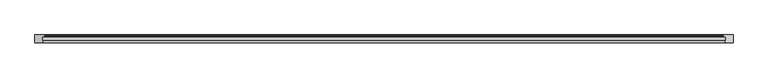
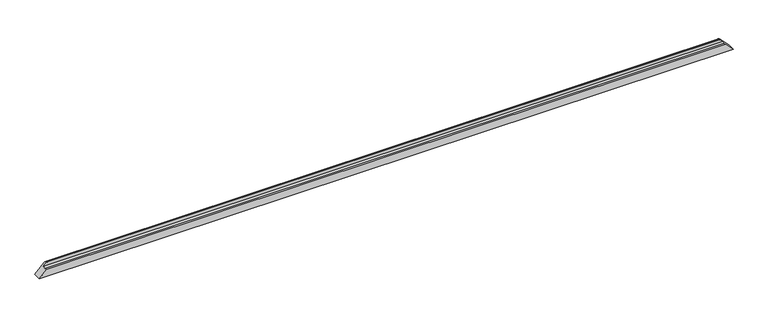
"""IFC4 building model written with IfcOpenShell, lengths in millimetres: proxy geometry, Weiku - Montante - Caixilho 02.2.01.005 : Weiku - Montante - Caixilho 02.2.01.005."""

import ifcopenshell
import ifcopenshell.guid

model = None  # the IFC model being written
_history = None  # IfcOwnerHistory: only IFC2X3 demands one
_inside = {}  # id of a spatial element -> (the spatial element, [elements in it])
_under = {}  # id of a project, library or spatial element -> (it, [spatial elements below it])
_declared = {}  # id of a project -> (the project, [libraries it declares])
_typed = {}  # id of a type object -> (the type object, [elements of that type])
_made_of = {}  # id of a material, layer set ... -> (it, [elements and type objects made of it])


def new_model(schema):
    """Start an empty IFC model of exactly this schema.

    Asked for "IFC4X3", IfcOpenShell would pick the latest addendum, in which some entities
    have other attributes; the version numbers below select the first issue.
    IFC2X3 requires an IfcOwnerHistory on every rooted entity: one is made here for all.
    """
    global model, _history
    if schema == "IFC4X3":
        model = ifcopenshell.file(schema_version=(4, 3, 0, 0))
    else:
        model = ifcopenshell.file(schema=schema)
    _inside.clear()
    _under.clear()
    _declared.clear()
    _typed.clear()
    _made_of.clear()
    _history = None
    if model.schema == "IFC2X3":
        org = make("IfcOrganization", Name="unknown")
        user = make(
            "IfcPersonAndOrganization",
            ThePerson=make("IfcPerson", FamilyName="unknown"),
            TheOrganization=org,
        )
        app = make(
            "IfcApplication",
            ApplicationDeveloper=org,
            Version="unknown",
            ApplicationFullName="unknown",
            ApplicationIdentifier="unknown",
        )
        _history = make(
            "IfcOwnerHistory",
            OwningUser=user,
            OwningApplication=app,
            ChangeAction="ADDED",
            CreationDate=0,
        )
    return model


def make(cls, **values):
    """One entity of the class cls with the attributes given. An attribute that is None is left unset."""
    return model.create_entity(
        cls, **{name: value for name, value in values.items() if value is not None}
    )


def rooted(cls, **values):
    """An entity with a GlobalId (a new one), such as an element, a storey or a relation."""
    return make(cls, GlobalId=ifcopenshell.guid.new(), OwnerHistory=_history, **values)


def si_unit(unit_type, name, prefix=None):
    """IfcSIUnit, for example si_unit("LENGTHUNIT", "METRE", prefix="MILLI")."""
    return make("IfcSIUnit", UnitType=unit_type, Prefix=prefix, Name=name)


def assignment(units):
    """IfcUnitAssignment: the units of a project."""
    return None if units is None else make("IfcUnitAssignment", Units=units)


def point(xyz):
    """IfcCartesianPoint."""
    return None if xyz is None else make("IfcCartesianPoint", Coordinates=xyz)


def direction(xyz):
    """IfcDirection."""
    return None if xyz is None else make("IfcDirection", DirectionRatios=xyz)


def frame(location, z_axis=None, x_axis=None):
    """IfcAxis2Placement3D, a coordinate frame: its origin and axes. An axis left out is left unset."""
    return make(
        "IfcAxis2Placement3D",
        Location=point(location),
        Axis=direction(z_axis),
        RefDirection=direction(x_axis),
    )


def origin():
    """The frame at (0, 0, 0) with its axes left unset."""
    return frame((0.0, 0.0, 0.0))


def place(relative_to, where):
    """IfcLocalPlacement: puts the frame where relative to a parent placement (None: the world)."""
    return make(
        "IfcLocalPlacement", PlacementRelTo=relative_to, RelativePlacement=where
    )


def context(
    kind, dimensions, precision=None, world=None, true_north=None, identifier=None
):
    """IfcGeometricRepresentationContext, for example the 3D "Model" context."""
    return make(
        "IfcGeometricRepresentationContext",
        ContextIdentifier=identifier,
        ContextType=kind,
        CoordinateSpaceDimension=dimensions,
        Precision=precision,
        WorldCoordinateSystem=world,
        TrueNorth=true_north,
    )


def project(units=None, contexts=None):
    """IfcProject with its units and contexts."""
    return rooted(
        "IfcProject",
        Name="project",
        RepresentationContexts=contexts,
        UnitsInContext=assignment(units),
    )


def spatial(cls, under=None, at=None, **own):
    """A site, building, storey or space (cls), placed at a placement, below another one or the project."""
    s = rooted(cls, ObjectPlacement=at, **own)
    if under is not None:
        _under.setdefault(under.id(), (under, []))[1].append(s)
    return s


def ellipse_curve(where, semi_axis1, semi_axis2):
    """IfcEllipse in the frame where."""
    return make(
        "IfcEllipse", Position=where, SemiAxis1=semi_axis1, SemiAxis2=semi_axis2
    )


def shape(context_of_items, identifier, shape_type, items):
    """IfcShapeRepresentation: the items that make up one representation, for example the "Body"."""
    return make(
        "IfcShapeRepresentation",
        ContextOfItems=context_of_items,
        RepresentationIdentifier=identifier,
        RepresentationType=shape_type,
        Items=items,
    )


def source(mapping_origin, context_of_items, identifier, shape_type, items):
    """IfcRepresentationMap: a shape defined once, which mapped items show again and again."""
    return make(
        "IfcRepresentationMap",
        MappingOrigin=mapping_origin,
        MappedRepresentation=shape(context_of_items, identifier, shape_type, items),
    )


def transform(
    local_origin,
    x_axis=None,
    y_axis=None,
    z_axis=None,
    scale=None,
    scale2=None,
    scale3=None,
    uniform=True,
):
    """IfcCartesianTransformationOperator3D, or its non-uniform kind. x_axis, y_axis, z_axis: its Axis1, 2, 3."""
    if uniform:
        return make(
            "IfcCartesianTransformationOperator3D",
            Axis1=direction(x_axis),
            Axis2=direction(y_axis),
            LocalOrigin=point(local_origin),
            Scale=scale,
            Axis3=direction(z_axis),
        )
    return make(
        "IfcCartesianTransformationOperator3DnonUniform",
        Axis1=direction(x_axis),
        Axis2=direction(y_axis),
        LocalOrigin=point(local_origin),
        Scale=scale,
        Axis3=direction(z_axis),
        Scale2=scale2,
        Scale3=scale3,
    )


def mapped(mapping_source, mapping_target):
    """IfcMappedItem: shows the shape of a source again, moved by a transform."""
    return make(
        "IfcMappedItem", MappingSource=mapping_source, MappingTarget=mapping_target
    )


def made_of(thing, what):
    """Note that an element or type object is made of a material, layer set ...; save() writes the relation."""
    if what is not None:
        _made_of.setdefault(what.id(), (what, []))[1].append(thing)
    return thing


def element(
    cls,
    number,
    at=None,
    inside=None,
    cuts=None,
    type_object=None,
    material=None,
    context=None,
    identifier="Body",
    shape_type=None,
    held_by="IfcProductDefinitionShape",
    body=None,
    shapes=None,
    **own,
):
    """One element of the class cls, such as IfcWall. Its Tag is "e" and its number.

    at: its placement. inside: the storey or other place that contains it. cuts: it is an
    opening in that element (IfcRelVoidsElement). A single representation is given by context,
    identifier, shape_type and body (its items); several are given by shapes. held_by: the class
    of the entity that holds the representations. save() writes the other relations.
    """
    e = rooted(cls, Tag="e%d" % number, ObjectPlacement=at, **own)
    if body is not None:
        shapes = [shape(context, identifier, shape_type, body)]
    if shapes is not None:
        e.Representation = make(held_by, Representations=shapes)
    if inside is not None:
        _inside.setdefault(inside.id(), (inside, []))[1].append(e)
    if cuts is not None:
        rooted(
            "IfcRelVoidsElement", RelatingBuildingElement=cuts, RelatedOpeningElement=e
        )
    if type_object is not None:
        _typed.setdefault(type_object.id(), (type_object, []))[1].append(e)
    return made_of(e, material)


def aggregate(whole, parts):
    """IfcRelAggregates: a whole, such as a stair, and the parts it consists of."""
    return rooted("IfcRelAggregates", RelatingObject=whole, RelatedObjects=parts)


def save(model, path):
    """Write the relations noted so far, then the file.

    IfcRelAggregates (storeys below a building ...), IfcRelContainedInSpatialStructure (elements
    in a storey), IfcRelDefinesByType, IfcRelAssociatesMaterial and IfcRelDeclares: one each for
    every whole, place, type object, material and project.
    """
    for whole, parts in _under.values():
        aggregate(whole, parts)
    for where, things in _inside.values():
        rooted(
            "IfcRelContainedInSpatialStructure",
            RelatedElements=things,
            RelatingStructure=where,
        )
    for kind, things in _typed.values():
        rooted("IfcRelDefinesByType", RelatedObjects=things, RelatingType=kind)
    for what, things in _made_of.values():
        rooted("IfcRelAssociatesMaterial", RelatedObjects=things, RelatingMaterial=what)
    for by, libraries in _declared.values():
        rooted("IfcRelDeclares", RelatingContext=by, RelatedDefinitions=libraries)
    model.write(path)


def plane_surface(at):
    """IfcPlane: the flat surface through the origin of the frame at, square to its z axis."""
    return make("IfcPlane", Position=at)


def cylinder_surface(at, radius):
    """IfcCylindricalSurface: all points at the distance radius from the z axis of the frame at."""
    return make("IfcCylindricalSurface", Position=at, Radius=radius)


def advanced_brep(points, edges, surfaces, faces):
    """IfcAdvancedBrep: a solid bounded by faces that lie on surfaces and meet in shared edges.

    An edge is (start, end): straight between two places in points (the first is 0);
    or (start, end, curve); or (start, end, curve, False) where it runs against its curve.
    A face is (place in surfaces, loops), or (place, loops, False) where it looks against
    its surface's normal. A loop lists edges by number (the first is 1), with a minus sign
    where the edge is run from its end to its start. The first loop is the outer one.
    """
    corners = [point(p) for p in points]
    vertices = [make("IfcVertexPoint", VertexGeometry=c) for c in corners]
    made = []
    for start, end, *more in edges:
        made.append(
            make(
                "IfcEdgeCurve",
                EdgeStart=vertices[start],
                EdgeEnd=vertices[end],
                EdgeGeometry=more[0] if more else make("IfcPolyline", Points=[corners[start], corners[end]]),
                SameSense=more[1] if len(more) > 1 else True,
            )
        )
    hull = []
    for where, loops, *sense in faces:
        bounds = []
        for j, loop in enumerate(loops):
            ring = [make("IfcOrientedEdge", EdgeElement=made[abs(k) - 1], Orientation=k > 0) for k in loop]
            bounds.append(
                make(
                    "IfcFaceOuterBound" if j == 0 else "IfcFaceBound",
                    Bound=make("IfcEdgeLoop", EdgeList=ring),
                    Orientation=True,
                )
            )
        hull.append(make("IfcAdvancedFace", Bounds=bounds, FaceSurface=surfaces[where], SameSense=sense[0] if sense else True))
    return make("IfcAdvancedBrep", Outer=make("IfcClosedShell", CfsFaces=hull))


def generic_models_8d56d25d(model_context):
    return source(origin(), model_context, "Body", "AdvancedBrep", [
        advanced_brep(
        [(-2199.0, -12.5, 46.0), (2199.0, -12.5, 46.0), (2178.8909676, -12.5, 66.1090324), (-2178.8909676, -12.5, 66.1090324), (-2199.0, -37.8314286, 46.0), (2199.0, -37.8314286, 46.0), (-2196.0, -37.027581, 49.0), (2196.0, -37.027581, 49.0), (-2196.0, -50.0, 49.0), (2196.0, -50.0, 49.0), (2245.0, -50.0, 0.0), (-2245.0, -50.0, 0.0), (-2245.0, 0.0, 0.0), (2245.0, 0.0, 0.0), (-2183.4997332, 0.0, 61.5002668), (2183.4997332, 0.0, 61.5002668), (-2178.118227, -11.4929448, 66.881773), (2178.118227, -11.4929448, 66.881773), (2180.6019557, -2.2235429, 64.3980443), (-2180.6019557, -2.2235429, 64.3980443)],
        [
            (0, 1),
            (1, 2),
            (2, 3),
            (3, 0),
            (4, 5),
            (5, 1),
            (0, 4),
            (6, 7),
            (7, 5),
            (4, 6),
            (8, 9),
            (9, 7),
            (6, 8),
            (10, 9),
            (8, 11),
            (11, 10),
            (11, 12),
            (12, 13),
            (13, 10),
            (12, 14),
            (14, 15),
            (15, 13),
            (16, 17),
            (17, 18),
            (18, 19),
            (19, 16),
            (3, 16, ellipse_curve(frame((-2178.8909676, -11.7, 66.1090324), z_axis=(-0.7071067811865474, 0.0, 0.7071067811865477), x_axis=(-0.7071067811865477, 0.0, -0.7071067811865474)), 1.1313708, 0.8)),
            (19, 14, ellipse_curve(frame((-2183.4997332, -3.0, 61.5002668), z_axis=(-0.7071067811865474, 0.0, 0.7071067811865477), x_axis=(-0.7071067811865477, 0.0, -0.7071067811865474)), 4.2426407, 3.0)),
            (15, 18, ellipse_curve(frame((2183.4997332, -3.0, 61.5002668), z_axis=(0.7071067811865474, 0.0, 0.7071067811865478), x_axis=(-0.7071067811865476, 0.0, 0.7071067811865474)), 4.2426407, 3.0)),
            (17, 2, ellipse_curve(frame((2178.8909676, -11.7, 66.1090324), z_axis=(0.7071067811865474, 0.0, 0.7071067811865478), x_axis=(-0.7071067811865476, 0.0, 0.7071067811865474)), 1.1313708, 0.8)),
        ],
        [
            plane_surface(frame((-2245.0, -12.5, 66.1090324), z_axis=(0.0, -1.0, 0.0), x_axis=(1.0, 0.0, 0.0))),
            plane_surface(frame((-2245.0, -12.5, 46.0), z_axis=(0.0, 0.0, 1.0), x_axis=(1.0, 0.0, 0.0))),
            plane_surface(frame((-2245.0, -37.8314286, 46.0), z_axis=(0.0, 0.9659258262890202, -0.2588190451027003), x_axis=(1.0, 0.0, 0.0))),
            plane_surface(frame((-2245.0, -37.027581, 49.0), z_axis=(0.0, 0.0, 1.0), x_axis=(1.0, 0.0, 0.0))),
            plane_surface(frame((-2245.0, -50.0, 49.0), z_axis=(0.0, -1.0, 0.0), x_axis=(1.0, 0.0, 0.0))),
            plane_surface(frame((-2245.0, -50.0, 0.0), z_axis=(0.0, 0.0, -1.0), x_axis=(1.0, 0.0, 0.0))),
            plane_surface(frame((-2245.0, 0.0, 0.0), z_axis=(0.0, 1.0, 0.0), x_axis=(1.0, 0.0, 0.0))),
            plane_surface(frame((-2245.0, -2.2235429, 64.3980443), z_axis=(0.0, 0.2588190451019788, 0.9659258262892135), x_axis=(1.0, 0.0, 0.0))),
            plane_surface(frame((-2315.0, 15.0, -70.0), z_axis=(-0.7071067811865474, 0.0, 0.7071067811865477), x_axis=(0.0, -1.0, 0.0))),
            plane_surface(frame((2175.0, 15.0, 70.0), z_axis=(0.7071067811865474, 0.0, 0.7071067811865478), x_axis=(0.0, -1.0, 0.0))),
            cylinder_surface(frame((-2245.0, -11.7, 66.1090324), z_axis=(-1.0, 0.0, 0.0), x_axis=(0.0, -1.0, 0.0)), 0.8),
            cylinder_surface(frame((-2245.0, -3.0, 61.5002668), z_axis=(-1.0, 0.0, 0.0), x_axis=(0.0, -1.0, 0.0)), 3.0),
        ],
        [
            (0, [[1, 2, 3, 4]]),
            (1, [[5, 6, -1, 7]]),
            (2, [[8, 9, -5, 10]]),
            (3, [[11, 12, -8, 13]]),
            (4, [[14, -11, 15, 16]]),
            (5, [[17, 18, 19, -16]]),
            (6, [[20, 21, 22, -18]]),
            (7, [[23, 24, 25, 26]]),
            (8, [[27, -26, 28, -20, -17, -15, -13, -10, -7, -4]]),
            (9, [[-6, -9, -12, -14, -19, -22, 29, -24, 30, -2]]),
            (10, [[-3, -30, -23, -27]]),
            (11, [[-25, -29, -21, -28]]),
        ],
    ),
    ])


if __name__ == "__main__":
    model = new_model("IFC4")
    model_context = context("Model", 3, world=origin())
    ifc_project = project(units=[si_unit("LENGTHUNIT", "METRE", prefix="MILLI")], contexts=[model_context])
    site = spatial("IfcSite", under=ifc_project)
    building = spatial("IfcBuilding", under=site)
    placement = place(None, origin())
    generic_models_shape = generic_models_8d56d25d(model_context)
    element("IfcBuildingElementProxy", 1, Name="Weiku - Montante - Caixilho 02.2.01.005 : Weiku - Montante - Caixilho 02.2.01.005", ObjectType="Weiku - Montante - Caixilho 02.2.01.005 : Weiku - Montante - Caixilho 02.2.01.005", at=placement, inside=building, context=model_context, shape_type="MappedRepresentation", body=[
        mapped(generic_models_shape, transform((0.0, 0.0, 0.0), x_axis=(1.0, 0.0, 0.0), y_axis=(0.0, 1.0, 0.0), z_axis=(0.0, 0.0, 1.0))),
    ])
    save(model, "model.ifc")
